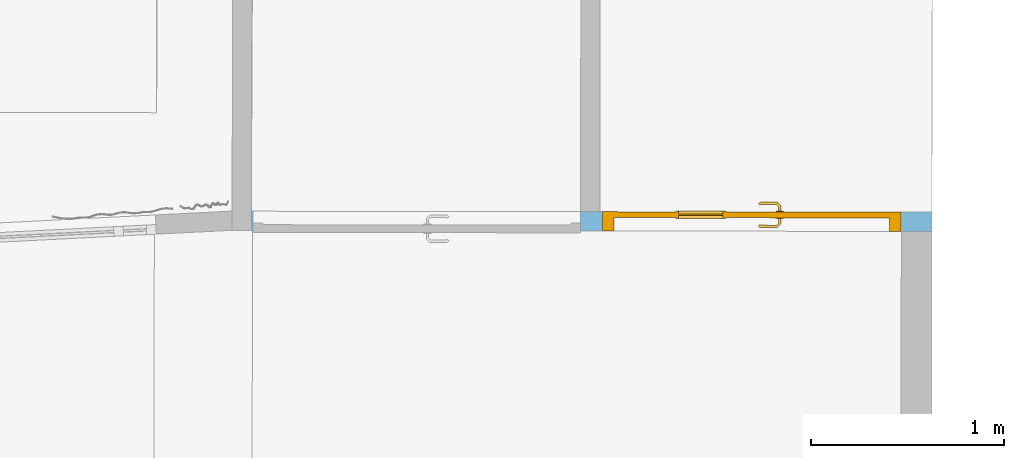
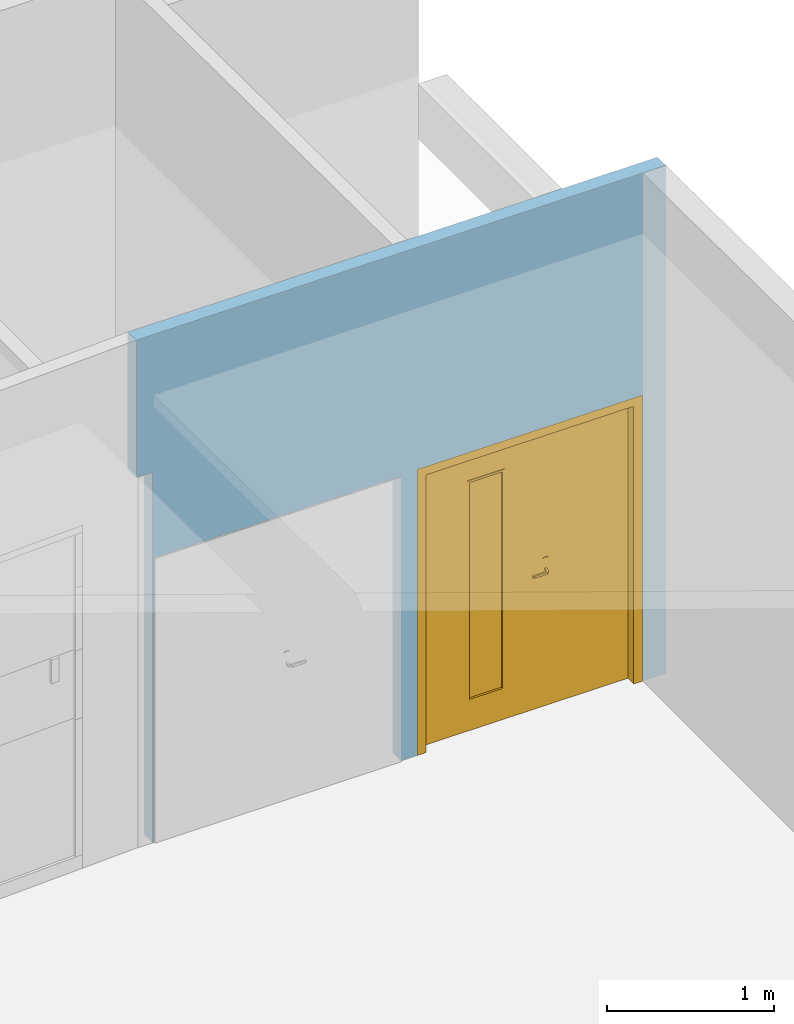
# One storey, part 22 of 43: 1 door, 2 openings, plus 1 element that does not belong to this part.
"""IFC2X3 building model written with IfcOpenShell, lengths in metres."""

from ifc_helpers import new_model, entity, si_unit, converted_unit, derived_unit, direction, frame, frame_2d, origin, place, context, subcontext, project, spatial, rectangle, extrude, faceted_brep, source, transform, mapped, material, material_list, layer, layer_set, type_object, type_shapes, element, fill, save


model = new_model("IFC2X3")

# Units and contexts
model_context = context("Model", 3, precision=1e-05, world=origin(), true_north=direction((6.123233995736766e-17, 1.0)))
body_context = subcontext(model_context, "Body", "Model", "MODEL_VIEW")
ifc_project = project(units=[si_unit("LENGTHUNIT", "METRE"), si_unit("AREAUNIT", "SQUARE_METRE"), converted_unit("PLANEANGLEUNIT", "DEGREE", entity("IfcPlaneAngleMeasure", 0.017453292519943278), si_unit("PLANEANGLEUNIT", "RADIAN"), dimensions=[0, 0, 0, 0, 0, 0, 0]), derived_unit("THERMALTRANSMITTANCEUNIT", [(si_unit("MASSUNIT", "GRAM", prefix="KILO"), 1), (si_unit("THERMODYNAMICTEMPERATUREUNIT", "KELVIN"), -1), (si_unit("TIMEUNIT", "SECOND"), -3)])], contexts=[model_context])

# Site, building, storey
site_placement = place(None, frame((1253.6752467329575, 2072.143113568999, 91.49999999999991), z_axis=(0.0, 0.0, 1.0), x_axis=(0.7237211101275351, 0.6900925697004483, 0.0)))
site = spatial("IfcSite", under=ifc_project, at=site_placement, Name="Surface", CompositionType="ELEMENT")
building_placement = place(site_placement, origin())
building = spatial("IfcBuilding", under=site, at=building_placement, CompositionType="ELEMENT")
storey_placement = place(building_placement, frame((0.0, 0.0, -4.629999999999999)))
storey = spatial("IfcBuildingStorey", under=building, at=storey_placement, Name="rez de rue -1.10m", CompositionType="ELEMENT", Elevation=-4.629999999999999)

# Wall, openings, door
ifc_material_1 = material(Name="OMD_Cloison 100mm CF1h")
ifc_layer = layer(ifc_material_1, 0.1)
ifc_layer_set = layer_set([ifc_layer], Name="Mur de base:Cloison 100mm CF1h")
wall_type = type_object("IfcWallType", Name="Mur de base:Cloison 100mm CF1h", PredefinedType="STANDARD", material=ifc_layer_set)
wall_placement = place(storey_placement, frame((186.22996124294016, 3.0242761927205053, 0.0), z_axis=(0.0, 0.0, 1.0), x_axis=(0.7227070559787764, -0.6911544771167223, 0.0)))
wall = element("IfcWall", 1, at=wall_placement, inside=storey, type_object=wall_type, Name="Mur de base:Cloison 100mm CF1h", ObjectType="Mur de base:Cloison 100mm CF1h", context=body_context, shape_type="Brep", body=[
    faceted_brep([(3.6505418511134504, -0.0500000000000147, 0.0), (3.6505418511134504, -0.0500000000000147, 3.7040700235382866), (3.490551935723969, -0.05000000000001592, 3.7040700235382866), (0.002618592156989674, -0.05000000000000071, 3.7040700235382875), (0.002618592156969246, -0.050000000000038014, 2.7000000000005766), (0.014217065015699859, -0.05000000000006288, 2.7000000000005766), (0.11421712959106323, -0.05000000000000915, 2.7000000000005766), (0.11421712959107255, -0.05000000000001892, 0.0), (0.12424645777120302, -0.05000000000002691, 0.0), (0.12424645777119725, -0.050000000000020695, 2.0749999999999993), (1.8242464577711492, -0.049999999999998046, 2.0749999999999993), (1.8242464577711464, -0.04999999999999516, 0.0), (1.9392464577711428, -0.05000000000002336, 0.0), (1.939246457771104, -0.05000000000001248, 2.085), (3.4892464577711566, -0.0500000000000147, 2.085), (3.4892464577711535, -0.05000000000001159, 0.0), (3.4905519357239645, -0.05000000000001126, 0.0), (3.650551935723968, 0.04999999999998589, 3.7031798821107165), (3.6505668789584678, 0.04999999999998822, 0.0), (3.4892464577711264, 0.049999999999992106, 0.0), (3.4892464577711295, 0.049999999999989, 2.085), (1.9392464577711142, 0.04999999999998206, 2.085), (1.9392464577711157, 0.049999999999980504, 0.0), (1.9242464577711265, 0.0499999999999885, 0.0), (1.8242464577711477, 0.04999999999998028, 0.0), (1.8242464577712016, 0.04999999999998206, 2.0749999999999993), (0.12424645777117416, 0.049999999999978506, 2.0749999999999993), (0.12424645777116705, 0.049999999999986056, 0.0), (0.1143307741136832, 0.049999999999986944, 0.0), (0.11433077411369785, 0.0499999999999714, 2.7000000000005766), (0.0, 0.04999999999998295, 2.7000000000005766), (0.0, 0.04999999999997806, 3.7031798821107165), (1.824246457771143, 0.049999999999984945, 3.7031798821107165), (1.9242464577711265, 0.0499999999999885, 3.7031798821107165)], [[[0, 1, 2, 3, 4, 5, 6, 7, 8, 9, 10, 11, 12, 13, 14, 15, 16]], [[17, 18, 19, 20, 21, 22, 23, 24, 25, 26, 27, 28, 29, 30, 31, 32, 33]], [[7, 28, 27, 8]], [[0, 18, 17, 1]], [[14, 20, 19, 15]], [[20, 14, 13, 21]], [[21, 13, 12, 22]], [[3, 2, 1, 17, 33, 32, 31]], [[10, 25, 24, 11]], [[25, 10, 9, 26]], [[26, 9, 8, 27]], [[30, 29, 6, 5, 4]], [[28, 7, 6, 29]], [[3, 31, 30, 4]], [[22, 12, 11, 24, 23]], [[18, 0, 16, 15, 19]]]),
])
opening_1_placement = place(wall_placement, frame((1.8242464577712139, 0.05000000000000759, 0.0)))
element("IfcOpeningElement", 2, at=opening_1_placement, cuts=wall, Name="Double (T):1.63m x 2.04m:1", ObjectType="Opening", context=body_context, shape_type="SweptSolid", body=[
    extrude(rectangle(XDim=2.0749999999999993, YDim=1.699999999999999, at=frame_2d((1.0374999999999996, 0.8499999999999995), x_axis=(1.0, 0.0))), frame((0.0, 0.0, 0.0), z_axis=(0.0, -1.0, 0.0), x_axis=(0.0, 0.0, 1.0)), (0.0, 0.0, 1.0), 0.1),
])
opening_2_placement = place(wall_placement, frame((1.9392464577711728, -0.05000000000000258, 0.0)))
opening_2 = element("IfcOpeningElement", 3, at=opening_2_placement, cuts=wall, Name="OMD_Porte 2V tunnel:140x204 +occulus:1", ObjectType="Opening", context=body_context, shape_type="SweptSolid", body=[
    extrude(rectangle(XDim=2.085, YDim=1.5499999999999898, at=frame_2d((1.0425, 0.7749999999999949), x_axis=(1.0, 0.0))), frame((0.0, 0.0, 0.0), z_axis=(0.0, 1.0, 0.0), x_axis=(0.0, 0.0, 1.0)), (0.0, 0.0, 1.0), 0.1),
])
ifc_material_2 = material(Name="<Unnamed>")
ifc_material_3 = material(Name="Porte - Poignée")
ifc_material_4 = material(Name="Verre")
ifc_material_5 = material(Name="OMD_RAL5023")
ifc_material_list = material_list([ifc_material_2, ifc_material_3, ifc_material_4, ifc_material_5])
door_style = type_object("IfcDoorStyle", Name="OMD_Porte 2V tunnel:140x204 +occulus", ConstructionType="NOTDEFINED", OperationType="NOTDEFINED", ParameterTakesPrecedence=False, Sizeable=False, material=ifc_material_list)
shared_shape = source(origin(), body_context, "Body", "Brep", [
    faceted_brep([(0.1450000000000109, 0.030000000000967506, 0.0), (0.6750000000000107, 0.030000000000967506, 0.0), (0.6750000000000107, 0.0, 0.0), (0.1450000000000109, 0.0, 0.0), (0.1450000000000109, 0.030000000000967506, 2.04), (0.1450000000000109, 0.0, 2.04), (0.6750000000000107, 0.0, 2.04), (0.6750000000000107, 0.030000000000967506, 2.04)], [[[0, 1, 2, 3]], [[4, 0, 3, 5]], [[5, 3, 2, 6]], [[6, 2, 1, 7]], [[7, 1, 0, 4]], [[4, 5, 6, 7]]]),
    faceted_brep([(0.7279747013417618, 0.035000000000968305, 1.0077804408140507), (0.7239999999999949, 0.035000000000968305, 1.0069999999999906), (0.7239999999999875, 0.035000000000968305, 0.9929999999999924), (0.7279747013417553, 0.035000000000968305, 0.9922195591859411), (0.7320252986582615, 0.035000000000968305, 0.9922195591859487), (0.7360000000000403, 0.035000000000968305, 0.9930000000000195), (0.7360000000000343, 0.035000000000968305, 1.0069999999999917), (0.7320252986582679, 0.035000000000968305, 1.007780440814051), (0.7360000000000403, 0.057485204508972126, 0.9930000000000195), (0.7360000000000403, 0.057485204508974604, 1.0069999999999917), (0.7320252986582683, 0.05913157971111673, 1.007780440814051), (0.7458389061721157, 0.07294518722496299, 1.007780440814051), (0.7441610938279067, 0.07699578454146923, 1.0077804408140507), (0.7279747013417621, 0.06080939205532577, 1.0077804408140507), (0.8356847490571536, 0.06646731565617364, 1.0077804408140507), (0.8385489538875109, 0.06933152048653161, 1.0077804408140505), (0.8308846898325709, 0.07699578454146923, 1.0077804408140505), (0.8292068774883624, 0.07294518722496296, 1.0077804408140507), (0.7239999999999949, 0.06245576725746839, 1.0069999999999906), (0.7239999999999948, 0.06245576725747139, 0.9929999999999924), (0.7279747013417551, 0.060809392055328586, 0.9922195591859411), (0.7441610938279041, 0.07699578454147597, 0.9922195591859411), (0.7458389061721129, 0.07294518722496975, 0.9922195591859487), (0.7320252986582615, 0.05913157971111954, 0.9922195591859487), (0.8385489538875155, 0.06933152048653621, 0.9922195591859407), (0.8356847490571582, 0.06646731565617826, 0.9922195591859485), (0.8292068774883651, 0.07294518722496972, 0.9922195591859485), (0.8308846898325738, 0.07699578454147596, 0.9922195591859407), (0.74748528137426, 0.06897048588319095, 0.9930000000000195), (0.7474852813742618, 0.06897048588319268, 1.0069999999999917), (0.7425147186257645, 0.08097048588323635, 1.0069999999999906), (0.7425147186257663, 0.08097048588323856, 0.9929999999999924), (0.787522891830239, 0.06897048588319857, 0.9930000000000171), (0.8275605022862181, 0.06897048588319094, 0.9930000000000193), (0.8275605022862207, 0.06897048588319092, 1.0069999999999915), (0.787522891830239, 0.06897048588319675, 1.0069999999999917), (0.7875228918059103, 0.07512492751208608, 1.0078781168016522), (0.8325310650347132, 0.0809704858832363, 1.0069999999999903), (0.7926005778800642, 0.08097048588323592, 1.0069999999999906), (0.8325310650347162, 0.08097048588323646, 0.9929999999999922), (0.7824452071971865, 0.08097048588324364, 0.9929999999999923), (0.7875228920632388, 0.07512492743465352, 0.9921218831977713), (0.8328742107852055, 0.06365677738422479, 0.9930000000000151), (0.8413594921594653, 0.0721420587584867, 0.99299999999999), (0.8413594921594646, 0.07214205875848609, 1.0069999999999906), (0.8328742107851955, 0.06365677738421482, 1.0069999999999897)], [[[0, 1, 2, 3, 4, 5, 6, 7]], [[6, 5, 8, 9]], [[9, 10, 7, 6]], [[10, 11, 12, 13, 0, 7]], [[14, 15, 16, 17]], [[13, 18, 1, 0]], [[2, 1, 18, 19]], [[19, 20, 3, 2]], [[20, 21, 22, 23, 4, 3]], [[24, 25, 26, 27]], [[23, 8, 5, 4]], [[9, 8, 28, 29]], [[29, 11, 10, 9]], [[12, 30, 18, 13]], [[19, 18, 30, 31]], [[31, 21, 20, 19]], [[22, 28, 8, 23]], [[29, 28, 32, 33, 34, 35]], [[11, 35, 36]], [[16, 37, 38]], [[30, 12, 38]], [[38, 12, 36]], [[36, 35, 17]], [[17, 16, 36]], [[35, 11, 29]], [[34, 17, 35]], [[11, 36, 12]], [[38, 36, 16]], [[31, 30, 38, 37, 39, 40]], [[40, 41, 21]], [[41, 40, 27]], [[21, 31, 40]], [[39, 27, 40]], [[41, 32, 22]], [[22, 21, 41]], [[26, 32, 41]], [[28, 22, 32]], [[32, 26, 33]], [[26, 41, 27]], [[42, 25, 24, 43, 44, 15, 14, 45]], [[34, 33, 42, 45]], [[45, 14, 17, 34]], [[15, 44, 37, 16]], [[39, 37, 44, 43]], [[43, 24, 27, 39]], [[25, 42, 33, 26]]]),
    faceted_brep([(0.7279747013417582, -0.004999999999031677, 1.0077804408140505), (0.7320252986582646, -0.004999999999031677, 1.007780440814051), (0.7360000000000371, -0.004999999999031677, 1.006999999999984), (0.7360000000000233, -0.004999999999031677, 0.9930000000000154), (0.7320252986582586, -0.004999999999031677, 0.9922195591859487), (0.7279747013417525, -0.004999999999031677, 0.992219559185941), (0.7239999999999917, -0.004999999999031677, 0.992999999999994), (0.7239999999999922, -0.004999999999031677, 1.0069999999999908), (0.723999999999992, -0.03265095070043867, 1.0069999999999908), (0.727974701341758, -0.031004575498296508, 1.0077804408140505), (0.7440235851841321, -0.047053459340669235, 1.0077804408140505), (0.745701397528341, -0.043002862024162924, 1.007780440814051), (0.7320252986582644, -0.029326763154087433, 1.007780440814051), (0.8385218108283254, -0.03938919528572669, 1.0077804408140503), (0.8356576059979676, -0.036524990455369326, 1.0077804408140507), (0.8291797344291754, -0.043002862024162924, 1.0077804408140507), (0.8308575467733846, -0.047053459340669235, 1.0077804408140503), (0.7360000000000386, -0.027680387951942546, 1.0069999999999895), (0.7360000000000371, -0.027680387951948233, 0.9930000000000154), (0.7320252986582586, -0.029326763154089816, 0.9922195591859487), (0.7457013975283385, -0.04300286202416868, 0.9922195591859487), (0.7440235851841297, -0.04705345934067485, 0.992219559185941), (0.7279747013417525, -0.031004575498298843, 0.992219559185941), (0.8356576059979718, -0.03652499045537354, 0.9922195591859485), (0.8385218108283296, -0.03938919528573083, 0.9922195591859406), (0.8308575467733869, -0.04705345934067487, 0.9922195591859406), (0.8291797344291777, -0.04300286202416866, 0.9922195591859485), (0.7239999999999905, -0.03265095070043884, 0.9929999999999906), (0.7423772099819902, -0.051028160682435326, 1.0069999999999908), (0.7473477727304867, -0.03902816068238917, 1.0069999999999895), (0.7473477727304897, -0.03902816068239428, 0.9930000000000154), (0.7423772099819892, -0.05102816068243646, 0.9929999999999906), (0.7823076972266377, -0.05102816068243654, 1.0069999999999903), (0.7874405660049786, -0.045182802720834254, 1.0078781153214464), (0.8325039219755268, -0.051028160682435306, 1.0069999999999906), (0.7874405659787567, -0.039028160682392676, 1.0069999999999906), (0.8275333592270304, -0.039028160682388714, 1.0069999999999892), (0.827533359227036, -0.03902816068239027, 0.9930000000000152), (0.7874405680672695, -0.03902816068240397, 0.9930000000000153), (0.7874405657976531, -0.04518280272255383, 0.9921218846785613), (0.832503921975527, -0.05102816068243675, 0.9929999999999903), (0.7925734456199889, -0.051028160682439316, 0.9929999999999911), (0.8328470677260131, -0.03371445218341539, 1.0069999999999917), (0.8413323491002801, -0.042199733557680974, 1.0069999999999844), (0.841332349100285, -0.04219973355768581, 0.9929999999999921), (0.8328470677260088, -0.03371445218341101, 0.9930000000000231)], [[[0, 1, 2, 3, 4, 5, 6, 7]], [[8, 9, 0, 7]], [[9, 10, 11, 12, 1, 0]], [[13, 14, 15, 16]], [[12, 17, 2, 1]], [[3, 2, 17, 18]], [[18, 19, 4, 3]], [[19, 20, 21, 22, 5, 4]], [[23, 24, 25, 26]], [[22, 27, 6, 5]], [[7, 6, 27, 8]], [[28, 10, 9, 8]], [[11, 29, 17, 12]], [[18, 17, 29, 30]], [[30, 20, 19, 18]], [[21, 31, 27, 22]], [[8, 27, 31, 28]], [[32, 33, 10]], [[33, 32, 16]], [[10, 28, 32]], [[34, 16, 32]], [[33, 35, 11]], [[11, 10, 33]], [[15, 35, 33]], [[29, 11, 35]], [[35, 15, 36]], [[15, 33, 16]], [[30, 29, 35, 36, 37, 38]], [[20, 38, 39]], [[25, 40, 41]], [[31, 21, 41]], [[41, 21, 39]], [[39, 38, 26]], [[26, 25, 39]], [[38, 20, 30]], [[37, 26, 38]], [[20, 39, 21]], [[41, 39, 25]], [[28, 31, 41, 40, 34, 32]], [[42, 14, 13, 43, 44, 24, 23, 45]], [[43, 13, 16, 34]], [[14, 42, 36, 15]], [[37, 36, 42, 45]], [[45, 23, 26, 37]], [[24, 44, 40, 25]], [[34, 40, 44, 43]]]),
    faceted_brep([(0.7403527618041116, 0.030000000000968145, 0.8660039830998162), (0.7500000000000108, 0.030000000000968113, 0.8700000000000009), (0.7500000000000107, 0.030000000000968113, 1.0800000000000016), (0.7403527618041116, 0.030000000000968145, 1.0839960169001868), (0.730000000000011, 0.03000000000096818, 1.0853589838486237), (0.7196472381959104, 0.03000000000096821, 1.0839960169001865), (0.7100000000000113, 0.030000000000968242, 1.0800000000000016), (0.7100000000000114, 0.030000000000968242, 0.8700000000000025), (0.7196472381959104, 0.03000000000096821, 0.866003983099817), (0.7300000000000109, 0.03000000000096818, 0.8646410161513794), (0.7403527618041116, 0.035000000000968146, 1.0839960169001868), (0.7500000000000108, 0.03500000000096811, 1.0800000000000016), (0.7500000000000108, 0.03500000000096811, 0.8700000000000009), (0.7403527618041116, 0.035000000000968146, 0.8660039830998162), (0.7300000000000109, 0.03500000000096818, 0.8646410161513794), (0.7196472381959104, 0.035000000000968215, 0.866003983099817), (0.7100000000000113, 0.03500000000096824, 0.8700000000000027), (0.7100000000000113, 0.03500000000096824, 1.0800000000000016), (0.7196472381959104, 0.035000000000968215, 1.0839960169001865), (0.730000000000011, 0.03500000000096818, 1.0853589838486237)], [[[0, 1, 2, 3, 4, 5, 6, 7, 8, 9]], [[10, 11, 12, 13, 14, 15, 16, 17, 18, 19]], [[11, 10, 3, 2]], [[3, 10, 19, 4]], [[19, 18, 5, 4]], [[18, 17, 6, 5]], [[7, 6, 17, 16]], [[16, 15, 8, 7]], [[8, 15, 14, 9]], [[14, 13, 0, 9]], [[13, 12, 1, 0]], [[2, 1, 12, 11]]]),
    faceted_brep([(0.7403527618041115, -0.004999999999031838, 0.8660039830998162), (0.7500000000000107, -0.004999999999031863, 0.8700000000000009), (0.7500000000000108, -0.004999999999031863, 1.0800000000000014), (0.7403527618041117, -0.004999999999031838, 1.0839960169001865), (0.7300000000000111, -0.004999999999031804, 1.0853589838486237), (0.7196472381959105, -0.00499999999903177, 1.0839960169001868), (0.7100000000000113, -0.0049999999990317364, 1.0800000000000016), (0.7100000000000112, -0.0049999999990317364, 0.8700000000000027), (0.71964723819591, -0.00499999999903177, 0.8660039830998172), (0.7300000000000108, -0.004999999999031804, 0.8646410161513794), (0.7403527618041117, 0.0, 1.0839960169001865), (0.7500000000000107, 0.0, 1.0800000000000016), (0.7500000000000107, 0.0, 0.8700000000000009), (0.7403527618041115, 0.0, 0.8660039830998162), (0.7300000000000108, 0.0, 0.8646410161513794), (0.71964723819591, 0.0, 0.8660039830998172), (0.7100000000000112, 0.0, 0.8700000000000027), (0.7100000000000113, 0.0, 1.0800000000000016), (0.7196472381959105, 0.0, 1.0839960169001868), (0.7300000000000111, 0.0, 1.0853589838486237)], [[[0, 1, 2, 3, 4, 5, 6, 7, 8, 9]], [[10, 11, 12, 13, 14, 15, 16, 17, 18, 19]], [[16, 15, 8, 7]], [[8, 15, 14, 9]], [[14, 13, 0, 9]], [[13, 12, 1, 0]], [[2, 1, 12, 11]], [[11, 10, 3, 2]], [[3, 10, 19, 4]], [[19, 18, 5, 4]], [[18, 17, 6, 5]], [[7, 6, 17, 16]]]),
    faceted_brep([(1.01500000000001, 0.01100000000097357, 1.820000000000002), (1.01500000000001, 0.01100000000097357, 0.22000000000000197), (1.2650000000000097, 0.011000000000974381, 0.22000000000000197), (1.2650000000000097, 0.011000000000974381, 1.820000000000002), (1.2650000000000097, 0.019000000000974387, 0.22000000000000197), (1.2650000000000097, 0.01900000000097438, 1.820000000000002), (1.01500000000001, 0.01900000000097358, 0.22000000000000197), (1.01500000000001, 0.01900000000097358, 1.820000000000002)], [[[0, 1, 2, 3]], [[2, 4, 5, 3]], [[1, 6, 4, 2]], [[0, 7, 6, 1]], [[7, 5, 4, 6]], [[3, 5, 7, 0]]]),
    faceted_brep([(1.0150000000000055, 0.030000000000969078, 1.820000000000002), (1.0150000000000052, 0.030000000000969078, 0.22000000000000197), (1.0150000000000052, 0.01900000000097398, 0.22000000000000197), (1.0150000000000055, 0.01900000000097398, 1.820000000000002), (1.2650000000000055, 0.01900000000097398, 0.22000000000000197), (1.2650000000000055, 0.01900000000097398, 1.820000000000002), (1.0250000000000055, 0.01900000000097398, 0.23000000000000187), (1.0250000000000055, 0.01900000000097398, 1.8100000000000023), (1.2550000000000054, 0.01900000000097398, 1.8100000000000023), (1.2550000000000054, 0.01900000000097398, 0.23000000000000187), (1.2650000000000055, 0.030000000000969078, 0.22000000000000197), (1.2650000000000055, 0.030000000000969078, 1.820000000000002), (1.0100000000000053, 0.030000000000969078, 1.825000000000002), (1.0100000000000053, 0.030000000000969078, 0.21500000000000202), (1.2700000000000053, 0.030000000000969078, 0.21500000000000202), (1.2700000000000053, 0.030000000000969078, 1.825000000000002), (1.0100000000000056, 0.03398525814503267, 1.825000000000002), (1.0100000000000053, 0.03398525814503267, 0.21500000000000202), (1.2700000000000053, 0.03398525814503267, 0.21500000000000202), (1.2700000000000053, 0.03398525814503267, 1.825000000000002), (1.0250000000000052, 0.03398525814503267, 1.8100000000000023), (1.0250000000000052, 0.03398525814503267, 0.23000000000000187), (1.2550000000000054, 0.03398525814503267, 0.23000000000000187), (1.2550000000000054, 0.03398525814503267, 1.8100000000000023)], [[[0, 1, 2, 3]], [[3, 2, 4, 5], [6, 7, 8, 9]], [[1, 10, 4, 2]], [[1, 0, 11, 10], [12, 13, 14, 15]], [[16, 17, 13, 12]], [[17, 18, 14, 13]], [[17, 16, 19, 18], [20, 21, 22, 23]], [[7, 6, 21, 20]], [[6, 9, 22, 21]], [[10, 11, 5, 4]], [[18, 19, 15, 14]], [[9, 8, 23, 22]], [[11, 0, 3, 5]], [[19, 16, 12, 15]], [[8, 7, 20, 23]]], outer=[[True], [True, False], [True], [False, True], [True], [True], [True, False], [True], [True], [True], [True], [True], [True], [True], [True]]),
    faceted_brep([(1.0100000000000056, 0.0, 1.825000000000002), (1.0100000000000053, 0.0, 0.21500000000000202), (1.0100000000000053, -0.003827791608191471, 0.21500000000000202), (1.0100000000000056, -0.003827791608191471, 1.825000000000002), (1.2700000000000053, -0.003827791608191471, 0.21500000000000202), (1.2700000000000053, -0.003827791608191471, 1.825000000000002), (1.0250000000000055, -0.003827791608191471, 0.23000000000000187), (1.0250000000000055, -0.003827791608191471, 1.8100000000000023), (1.2550000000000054, -0.003827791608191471, 1.8100000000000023), (1.2550000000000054, -0.003827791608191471, 0.23000000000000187), (1.2700000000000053, 0.0, 0.21500000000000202), (1.2700000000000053, 0.0, 1.825000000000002), (1.0150000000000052, 0.0, 1.820000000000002), (1.0150000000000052, 0.0, 0.22000000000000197), (1.2650000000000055, 0.0, 0.22000000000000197), (1.2650000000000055, 0.0, 1.820000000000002), (1.2650000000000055, 0.011000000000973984, 0.22000000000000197), (1.2650000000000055, 0.011000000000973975, 1.820000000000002), (1.0150000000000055, 0.011000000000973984, 0.22000000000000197), (1.0150000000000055, 0.011000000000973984, 1.820000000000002), (1.2550000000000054, 0.011000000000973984, 0.23000000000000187), (1.0250000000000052, 0.011000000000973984, 0.23000000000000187), (1.2550000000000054, 0.011000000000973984, 1.8100000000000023), (1.0250000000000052, 0.011000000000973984, 1.8100000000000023)], [[[0, 1, 2, 3]], [[3, 2, 4, 5], [6, 7, 8, 9]], [[1, 10, 4, 2]], [[1, 0, 11, 10], [12, 13, 14, 15]], [[10, 11, 5, 4]], [[16, 17, 15, 14]], [[18, 16, 14, 13]], [[19, 18, 13, 12]], [[6, 9, 20, 21]], [[9, 8, 22, 20]], [[7, 6, 21, 23]], [[23, 21, 20, 22], [18, 19, 17, 16]], [[11, 0, 3, 5]], [[17, 19, 12, 15]], [[8, 7, 23, 22]]], outer=[[True], [True, False], [True], [True, False], [True], [True], [True], [True], [True], [True], [True], [False, True], [True], [True], [True]]),
    faceted_brep([(1.2650000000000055, 0.030000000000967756, 0.22000000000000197), (1.0150000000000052, 0.0300000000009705, 0.22000000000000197), (1.0150000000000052, 0.0, 0.22000000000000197), (1.2650000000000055, 0.0, 0.22000000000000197), (0.6750000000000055, 0.030000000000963, 0.0), (1.6050000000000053, 0.0300000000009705, 0.0), (1.6050000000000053, 0.0, 0.0), (0.675000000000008, 0.0, 0.0), (0.6750000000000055, 0.030000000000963, 2.04), (0.675000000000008, 0.0, 2.04), (1.6050000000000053, 0.0, 2.04), (1.2650000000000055, 0.0, 1.820000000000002), (1.0150000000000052, 0.0, 1.820000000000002), (1.6050000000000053, 0.0300000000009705, 2.04), (1.0150000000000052, 0.030000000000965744, 1.820000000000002), (1.2650000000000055, 0.030000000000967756, 1.820000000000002)], [[[0, 1, 2, 3]], [[4, 5, 6, 7]], [[8, 4, 7, 9]], [[9, 7, 6, 10], [11, 3, 2, 12]], [[10, 6, 5, 13]], [[14, 1, 0, 15], [13, 5, 4, 8]], [[15, 0, 3, 11]], [[12, 2, 1, 14]], [[8, 9, 10, 13]], [[11, 12, 14, 15]]], outer=[[True], [True], [True], [True, False], [True], [False, True], [True], [True], [True], [True]]),
    faceted_brep([(0.10000000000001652, 0.0, 0.0), (0.10000000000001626, 0.10000000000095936, 0.0), (0.1600000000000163, 0.10000000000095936, 0.0), (0.16000000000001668, 0.030000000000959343, 0.0), (0.14500000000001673, 0.0300000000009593, 0.0), (0.14500000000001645, 0.0, 0.0), (0.14500000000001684, 0.0, 2.0399999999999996), (1.605000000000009, 0.0, 2.0399999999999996), (1.6050000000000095, 0.0, 0.0), (1.6500000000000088, 0.0, 0.0), (1.6500000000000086, 0.0, 2.0849999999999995), (0.10000000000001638, 0.0, 2.085), (0.1450000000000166, 0.0300000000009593, 2.0399999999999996), (0.16000000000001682, 0.030000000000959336, 2.0249999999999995), (1.5900000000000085, 0.03000000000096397, 2.0249999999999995), (1.5900000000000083, 0.03000000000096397, 0.0), (1.6050000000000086, 0.030000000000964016, 0.0), (1.6050000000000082, 0.030000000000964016, 2.039999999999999), (0.16000000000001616, 0.10000000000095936, 2.0249999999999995), (0.10000000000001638, 0.10000000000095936, 2.0849999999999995), (1.6500000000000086, 0.10000000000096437, 2.0849999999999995), (1.6500000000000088, 0.10000000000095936, 0.0), (1.5900000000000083, 0.10000000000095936, 0.0), (1.5900000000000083, 0.10000000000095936, 2.0249999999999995)], [[[0, 1, 2, 3, 4, 5]], [[5, 6, 7, 8, 9, 10, 11, 0]], [[4, 12, 6, 5]], [[3, 13, 14, 15, 16, 17, 12, 4]], [[2, 18, 13, 3]], [[1, 19, 20, 21, 22, 23, 18, 2]], [[0, 11, 19, 1]], [[10, 9, 21, 20]], [[9, 8, 16, 15, 22, 21]], [[17, 16, 8, 7]], [[23, 22, 15, 14]], [[12, 17, 7, 6]], [[18, 23, 14, 13]], [[11, 10, 20, 19]]]),
])
type_shapes(door_style, [shared_shape])
door_placement = place(opening_2_placement, frame((1.6500000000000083, 0.10000000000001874, 0.0), z_axis=(0.0, 0.0, 1.0), x_axis=(-1.0, 0.0, 0.0)))
door = element("IfcDoor", 4, at=door_placement, inside=storey, type_object=door_style, material=ifc_material_list, Name="OMD_Porte 2V tunnel:140x204 +occulus", ObjectType="OMD_Porte 2V tunnel:140x204 +occulus", OverallHeight=2.085, OverallWidth=1.5499999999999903, context=body_context, shape_type="MappedRepresentation", body=[
    mapped(shared_shape, transform((0.0, 0.0, 0.0), scale=1.0)),
])
fill(opening_2, door)

save(model, "model.ifc")
